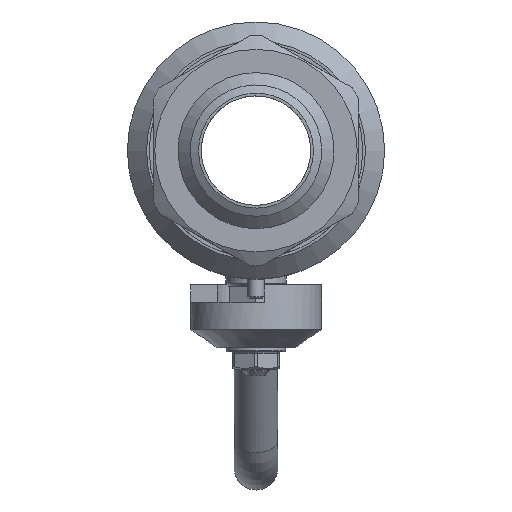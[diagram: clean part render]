
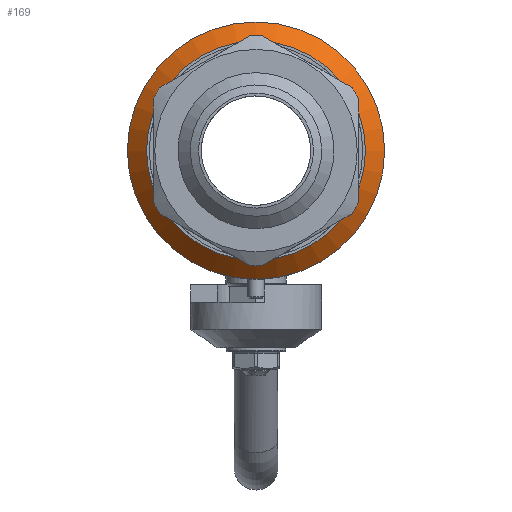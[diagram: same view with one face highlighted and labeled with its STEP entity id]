
A CAD part, left-side view. The second image highlights one B-rep face of the part: STEP entity #169.
In plain terms, the highlighted conical face has half-angle 45 degrees and reference radius 43.5 mm.
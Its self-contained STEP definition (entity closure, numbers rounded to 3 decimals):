
#169=ADVANCED_FACE('',(#1448),#1450,.T.);
#1448=FACE_OUTER_BOUND('',#1449,.T.);
#1449=EDGE_LOOP('',(#2855,#2856,#2857,#2858));
#1450=CONICAL_SURFACE('',#1451,43.5,0.785);
#1451=AXIS2_PLACEMENT_3D('',#1452,#1453,#1454);
#1452=CARTESIAN_POINT('',(-31.5,0.,0.));
#1453=DIRECTION('',(1.,0.,0.));
#1454=DIRECTION('',(0.,1.,0.));
#2855=ORIENTED_EDGE('',*,*,#4199,.T.);
#2856=ORIENTED_EDGE('',*,*,#4195,.T.);
#2857=ORIENTED_EDGE('',*,*,#4199,.F.);
#2858=ORIENTED_EDGE('',*,*,#4200,.F.);
#4195=EDGE_CURVE('',#4744,#4744,#4746,.T.);
#4199=EDGE_CURVE('',#4752,#4744,#4753,.T.);
#4200=EDGE_CURVE('',#4752,#4752,#4754,.T.);
#4744=VERTEX_POINT('',#6772);
#4746=CIRCLE('',#6776,47.);
#4752=VERTEX_POINT('',#6793);
#4753=LINE('',#6794,#6795);
#4754=CIRCLE('',#6797,40.);
#6772=CARTESIAN_POINT('',(-28.,-47.,0.));
#6776=AXIS2_PLACEMENT_3D('',#6777,#6778,#6779);
#6777=CARTESIAN_POINT('',(-28.,0.,0.));
#6778=DIRECTION('',(-1.,0.,0.));
#6779=DIRECTION('',(0.,-1.,0.));
#6793=CARTESIAN_POINT('',(-35.,-40.,0.));
#6794=CARTESIAN_POINT('',(-35.,-40.,0.));
#6795=VECTOR('',#6796,1.);
#6796=DIRECTION('',(0.707,-0.707,0.));
#6797=AXIS2_PLACEMENT_3D('',#6798,#6799,#6800);
#6798=CARTESIAN_POINT('',(-35.,0.,0.));
#6799=DIRECTION('',(-1.,0.,0.));
#6800=DIRECTION('',(0.,-1.,0.));
